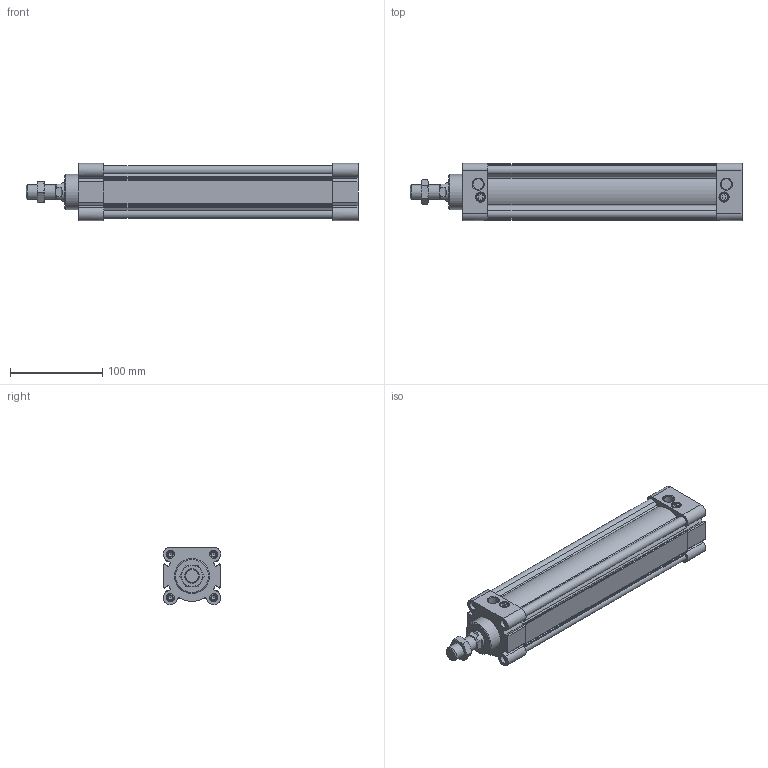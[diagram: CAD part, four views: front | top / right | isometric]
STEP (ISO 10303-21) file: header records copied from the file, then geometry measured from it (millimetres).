
FILE_DESCRIPTION(/* description */ ('STEP AP203'),/* implementation_level */ '2;1');
FILE_NAME(/* name */ 'SAU50x210(0_0_0)',/* time_stamp */ '2025-04-02T14:55:52+02:00',/* author */ ('License CC BY-ND 4.0'),/* organization */ ('CADENAS'),/* preprocessor_version */ 'ST-DEVELOPER v19.3',/* originating_system */ 'PARTsolutions',/* authorisation */ ' ');
FILE_SCHEMA (('CONFIG_CONTROL_DESIGN'));
Length unit declared in the file: millimetre
Products named in the file (5): SAU50x210(0,0,0); SAU50x210P(0); SAU50x210_body; SAU50x2100_rod; SU-50  Nut Piston Rod-P
Assembly tree (4 placements, depth 2):
  SAU50x210(0,0,0)
    SAU50x210P(0)
    SAU50x210_body
    SAU50x2100_rod
    SU-50  Nut Piston Rod-P
Bounding box: 360 x 62 x 62 mm (x, y, z)
Volume: 603101.1 mm3; surface area: 175142.4 mm2
Topology: 3 solids, 3 shells, 242 faces, 593 edges, 379 vertices
Faces by surface type: plane 141, cylinder 61, cone 40
Full cylindrical faces by diameter (mm): 4.917 x8, 8.5 x8, 9 x2, 10 x2, 11.445 x2, 14.376 x1, 16 x1, 20 x2, 38 x1, 50 x2
Entity records: 6892 total; most frequent: CARTESIAN_POINT 1248, DIRECTION 1166, ORIENTED_EDGE 1054, EDGE_CURVE 527, AXIS2_PLACEMENT_3D 424, VERTEX_POINT 373, FACE_BOUND 326, LINE 318
